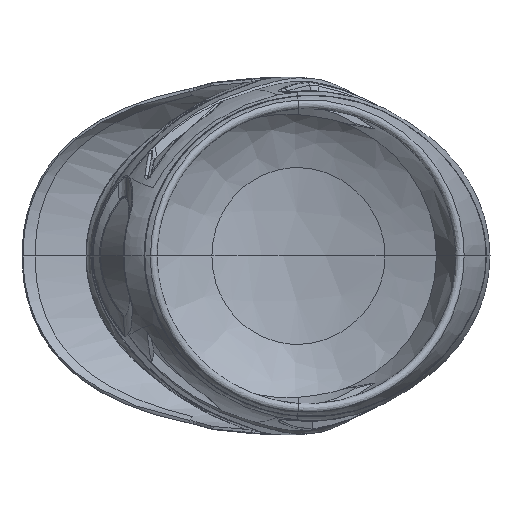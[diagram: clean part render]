
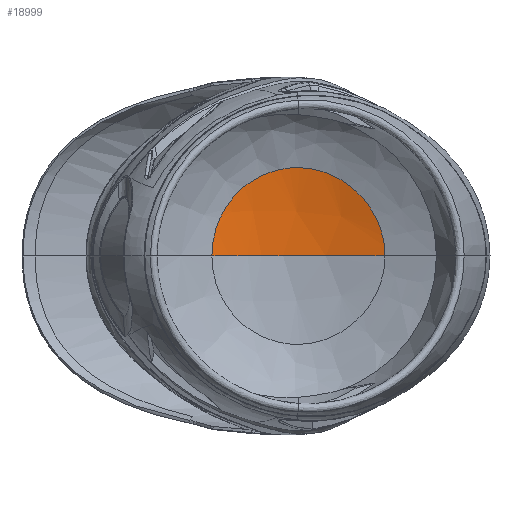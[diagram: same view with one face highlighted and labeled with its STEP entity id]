
A CAD part, front view. The second image highlights one B-rep face of the part: STEP entity #18999.
In plain terms, the highlighted free-form (B-spline) face has degree [3, 3] with [5, 9] control points.
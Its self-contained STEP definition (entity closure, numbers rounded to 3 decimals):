
#4432=CARTESIAN_POINT('',(133.186,236.778,0.));
#4433=CARTESIAN_POINT('',(133.186,236.778,6.395));
#4434=CARTESIAN_POINT('',(134.998,237.794,15.874));
#4435=CARTESIAN_POINT('',(140.567,239.943,26.835));
#4436=CARTESIAN_POINT('',(148.041,242.221,36.45));
#4437=CARTESIAN_POINT('',(158.081,244.267,43.646));
#4438=CARTESIAN_POINT('',(169.72,245.527,47.631));
#4439=CARTESIAN_POINT('',(178.914,245.939,48.834));
#4440=CARTESIAN_POINT('',(188.242,245.757,48.142));
#4441=CARTESIAN_POINT('',(197.333,245.057,45.544));
#4442=CARTESIAN_POINT('',(205.845,244.065,41.135));
#4443=CARTESIAN_POINT('',(213.438,243.061,35.078));
#4444=CARTESIAN_POINT('',(219.779,242.277,27.588));
#4445=CARTESIAN_POINT('',(224.579,241.822,18.988));
#4446=CARTESIAN_POINT('',(227.597,241.661,9.662));
#4447=CARTESIAN_POINT('',(228.287,241.642,3.217));
#4448=CARTESIAN_POINT('',(228.287,241.642,0.));
#4586=CARTESIAN_POINT('',(228.287,241.642,0.));
#4587=CARTESIAN_POINT('',(220.104,243.869,0.));
#4588=CARTESIAN_POINT('',(207.889,246.503,
0.));
#4589=CARTESIAN_POINT('',(191.671,248.413,
0.));
#4590=CARTESIAN_POINT('',(175.557,249.187,0.));
#4591=CARTESIAN_POINT('',(159.707,247.763,
-0.003));
#4592=CARTESIAN_POINT('',(144.436,242.891,0.005));
#4593=CARTESIAN_POINT('',(136.948,239.052,0.));
#4594=CARTESIAN_POINT('',(133.186,236.778,0.));
#5339=VERTEX_POINT('',#4586);
#5340=VERTEX_POINT('',#4594);
#18949=CARTESIAN_POINT('',(228.681,238.275,32.805));
#18950=CARTESIAN_POINT('',(221.017,240.385,37.43));
#18951=CARTESIAN_POINT('',(208.723,243.337,43.298));
#18952=CARTESIAN_POINT('',(191.959,245.484,48.156));
#18953=CARTESIAN_POINT('',(175.519,245.92,50.803));
#18954=CARTESIAN_POINT('',(159.376,243.505,50.277));
#18955=CARTESIAN_POINT('',(143.702,238.217,47.339));
#18956=CARTESIAN_POINT('',(136.131,234.638,45.165));
#18957=CARTESIAN_POINT('',(132.33,232.6,43.865));
#18958=CARTESIAN_POINT('',(228.791,239.392,27.273));
#18959=CARTESIAN_POINT('',(221.005,241.65,31.205));
#18960=CARTESIAN_POINT('',(208.676,244.725,36.185));
#18961=CARTESIAN_POINT('',(191.934,247.006,40.383));
#18962=CARTESIAN_POINT('',(175.513,247.639,42.766));
#18963=CARTESIAN_POINT('',(159.38,245.443,42.573));
#18964=CARTESIAN_POINT('',(143.71,240.09,40.431));
#18965=CARTESIAN_POINT('',(136.128,236.33,38.796));
#18966=CARTESIAN_POINT('',(132.304,234.156,37.807));
#18967=CARTESIAN_POINT('',(229.088,240.948,16.383));
#18968=CARTESIAN_POINT('',(220.997,243.299,18.537));
#18969=CARTESIAN_POINT('',(208.571,246.277,21.181));
#18970=CARTESIAN_POINT('',(191.863,248.48,23.443));
#18971=CARTESIAN_POINT('',(175.503,249.302,24.863));
#18972=CARTESIAN_POINT('',(159.425,247.606,25.209));
#18973=CARTESIAN_POINT('',(143.801,242.363,24.643));
#18974=CARTESIAN_POINT('',(136.203,238.398,24.071));
#18975=CARTESIAN_POINT('',(132.336,236.037,23.693));
#18976=CARTESIAN_POINT('',(229.22,241.402,5.232));
#18977=CARTESIAN_POINT('',(220.842,243.714,5.732));
#18978=CARTESIAN_POINT('',(208.341,246.449,6.312));
#18979=CARTESIAN_POINT('',(191.739,248.406,6.803));
#18980=CARTESIAN_POINT('',(175.527,249.189,7.157));
#18981=CARTESIAN_POINT('',(159.591,247.757,7.41));
#18982=CARTESIAN_POINT('',(144.02,242.745,7.498));
#18983=CARTESIAN_POINT('',(136.328,238.733,7.473));
#18984=CARTESIAN_POINT('',(132.352,236.276,7.434));
#18985=CARTESIAN_POINT('',(229.223,241.384,
-0.551));
#18986=CARTESIAN_POINT('',(220.713,243.737,
-0.605));
#18987=CARTESIAN_POINT('',(208.183,246.469,
-0.667));
#18988=CARTESIAN_POINT('',(191.663,248.413,
-0.72));
#18989=CARTESIAN_POINT('',(175.56,249.187,
-0.758));
#18990=CARTESIAN_POINT('',(159.719,247.764,
-0.781));
#18991=CARTESIAN_POINT('',(144.165,242.807,
-0.797));
#18992=CARTESIAN_POINT('',(136.396,238.767,
-0.788));
#18993=CARTESIAN_POINT('',(132.344,236.263,
-0.784));
#18994=B_SPLINE_SURFACE_WITH_KNOTS('',3,3,((#18949,#18950,#18951,#18952,#18953,
#18954,#18955,#18956,#18957),(#18958,#18959,#18960,#18961,#18962,#18963,#18964,
#18965,#18966),(#18967,#18968,#18969,#18970,#18971,#18972,#18973,#18974,#18975),
(#18976,#18977,#18978,#18979,#18980,#18981,#18982,#18983,#18984),(#18985,#18986,
#18987,#18988,#18989,#18990,#18991,#18992,#18993)),.UNSPECIFIED.,.F.,.F.,.F.,(4,
1,4),(4,1,1,1,1,1,4),(0.459,0.734,1.009),(
-0.004,0.252,0.376,0.5,
0.747,0.871,1.004),.UNSPECIFIED.);
#18995=ORIENTED_EDGE('',*,*,#18943,.T.);
#18996=ORIENTED_EDGE('',*,*,#18759,.T.);
#18997=EDGE_LOOP('',(#18995,#18996));
#18998=FACE_OUTER_BOUND('',#18997,.F.);
#18999=ADVANCED_FACE('',(#18998),#18994,.F.);
#4449=B_SPLINE_CURVE_WITH_KNOTS('',3,(#4432,#4433,#4434,#4435,#4436,#4437,#4438,
#4439,#4440,#4441,#4442,#4443,#4444,#4445,#4446,#4447,#4448),.UNSPECIFIED.,.F.,
.F.,(4,1,1,1,1,1,1,1,1,1,1,1,1,1,4),(0.,0.125,0.187,
0.25,0.375,0.437,0.5,
0.562,0.625,0.687,0.75,
0.812,0.875,0.937,1.),.UNSPECIFIED.);
#4595=B_SPLINE_CURVE_WITH_KNOTS('',3,(#4586,#4587,#4588,#4589,#4590,#4591,#4592,
#4593,#4594),.UNSPECIFIED.,.F.,.F.,(4,1,1,1,1,1,4),(0.,0.25,
0.375,0.5,0.75,0.875,1.),
.UNSPECIFIED.);
#18759=EDGE_CURVE('',#5340,#5339,#4449,.T.);
#18943=EDGE_CURVE('',#5339,#5340,#4595,.T.);
